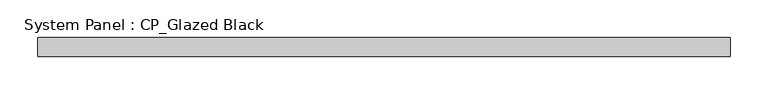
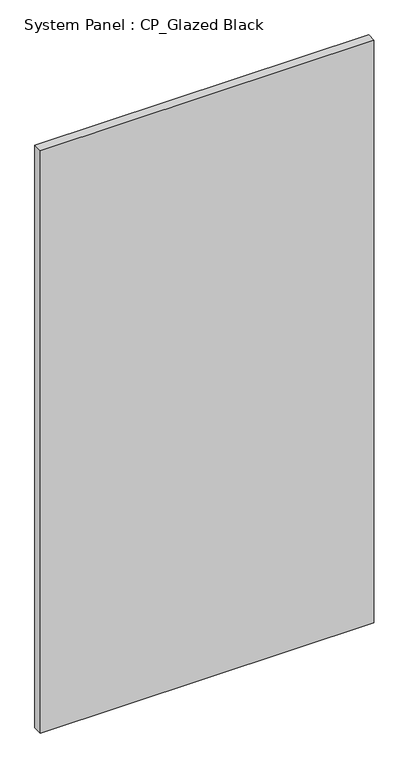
"""IFC4 building model written with IfcOpenShell, lengths in millimetres: plate geometry, System Panel : CP_Glazed Black."""

from ifc_helpers import new_model, si_unit, origin, origin_with_axes, place, context, project, spatial, polyline, outline, extrude, source, transform, mapped, element, save


def system_panel_cp_glazed_black_10a31928(model_context):
    return source(origin(), model_context, "Body", "SweptSolid", [
        extrude(outline(polyline([(461.2605518, 19.05), (-461.2605518, 19.05), (-461.2605518, 44.45), (461.2605518, 44.45), (461.2605518, 19.05)])), origin_with_axes(), (0.0, 0.0, 1.0), 1701.8),
    ])


if __name__ == "__main__":
    model = new_model("IFC4")
    model_context = context("Model", 3, world=origin())
    ifc_project = project(units=[si_unit("LENGTHUNIT", "METRE", prefix="MILLI")], contexts=[model_context])
    site = spatial("IfcSite", under=ifc_project)
    building = spatial("IfcBuilding", under=site)
    placement = place(None, origin())
    system_panel_cp_glazed_black_shape = system_panel_cp_glazed_black_10a31928(model_context)
    element("IfcPlate", 1, ObjectType="System Panel : CP_Glazed Black", at=placement, inside=building, context=model_context, shape_type="MappedRepresentation", body=[
        mapped(system_panel_cp_glazed_black_shape, transform((0.0, 0.0, 0.0), x_axis=(1.0, 0.0, 0.0), y_axis=(0.0, 1.0, 0.0), z_axis=(0.0, 0.0, 1.0))),
    ])
    save(model, "model.ifc")
